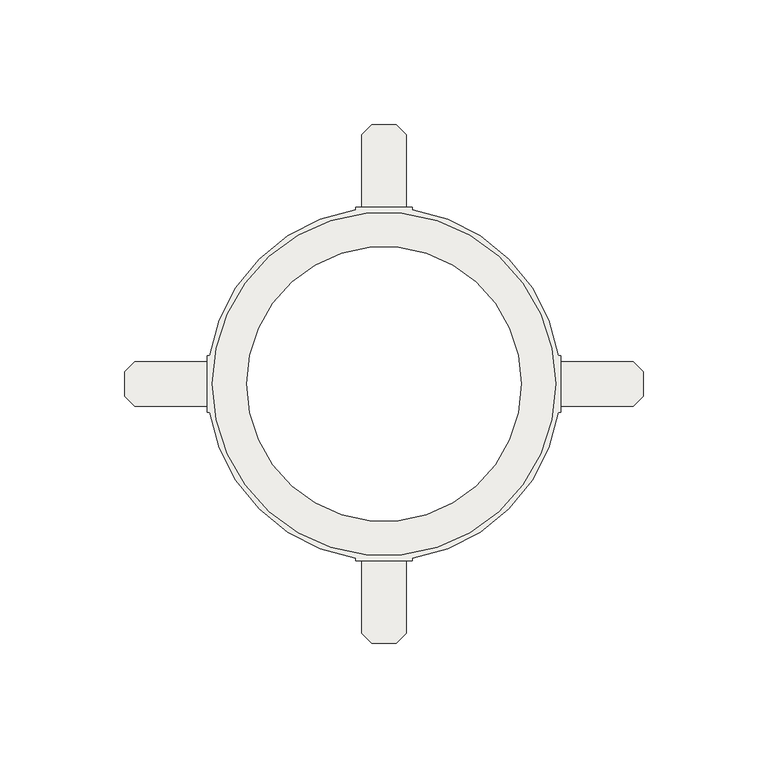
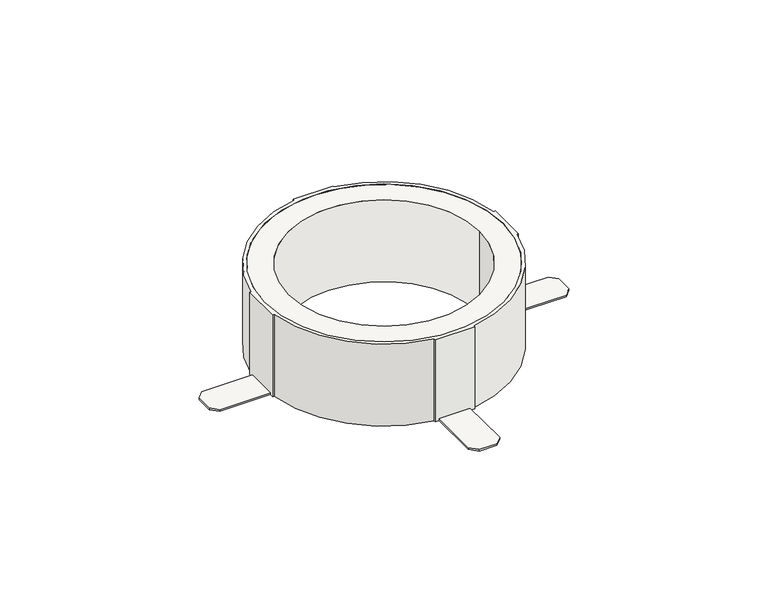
"""IFC4 building model written with IfcOpenShell, lengths in millimetres: covering geometry, NLRS_52_SE_WPB_brandmanchet RS90 Plus EN_PRO_101862_geb : DN40-200 / d40-200 - OD."""

from ifc_helpers import new_model, si_unit, point, origin, origin_with_axes, origin_2d, place, context, project, spatial, polyline, circle_curve, trimmed, segment, composite_curve, outline, extrude, source, transform, mapped, element, save


def covering_f3e6e1b0(model_context):
    return source(origin(), model_context, "Body", "SweptSolid", [
        extrude(outline(polyline([(-9.0, -99.75), (-9.0, -68.75), (9.0, -68.75), (9.0, -99.75), (5.0, -103.75), (-5.0, -103.75), (-9.0, -99.75)])), origin_with_axes(), (0.0, 0.0, 1.0), 1.0),
        extrude(outline(polyline([(-99.75, 9.0), (-68.75, 9.0), (-68.75, -9.0), (-99.75, -9.0), (-103.75, -5.0), (-103.75, 5.0), (-99.75, 9.0)])), origin_with_axes(), (0.0, 0.0, 1.0), 1.0),
        extrude(outline(polyline([(99.75, -9.0), (68.75, -9.0), (68.75, 9.0), (99.75, 9.0), (103.75, 5.0), (103.75, -5.0), (99.75, -9.0)])), origin_with_axes(), (0.0, 0.0, 1.0), 1.0),
        extrude(outline(polyline([(9.0, 99.75), (9.0, 68.75), (-9.0, 68.75), (-9.0, 99.75), (-5.0, 103.75), (5.0, 103.75), (9.0, 99.75)])), origin_with_axes(), (0.0, 0.0, 1.0), 1.0),
        extrude(outline(composite_curve([segment(polyline([(11.3825, 70.75), (11.3825, 69.8283695)]), True, "CONTINUOUS"), segment(trimmed(circle_curve(origin_2d(), 70.75), [point((11.3825, 69.8283695))], [point((69.8283695, 11.3825))], False, "CARTESIAN"), True, "CONTINUOUS"), segment(polyline([(69.8283695, 11.3825), (70.75, 11.3825), (70.75, -11.3825), (69.8283695, -11.3825)]), True, "CONTINUOUS"), segment(trimmed(circle_curve(origin_2d(), 70.75), [point((69.8283695, -11.3825))], [point((11.3825, -69.8283695))], False, "CARTESIAN"), True, "CONTINUOUS"), segment(polyline([(11.3825, -69.8283695), (11.3825, -70.75), (-11.3825, -70.75), (-11.3825, -69.8283695)]), True, "CONTINUOUS"), segment(trimmed(circle_curve(origin_2d(), 70.75), [point((-11.3825, -69.8283695))], [point((-69.8283695, -11.3825))], False, "CARTESIAN"), True, "CONTINUOUS"), segment(polyline([(-69.8283695, -11.3825), (-70.75, -11.3825), (-70.75, 11.3825), (-69.8283695, 11.3825)]), True, "CONTINUOUS"), segment(trimmed(circle_curve(origin_2d(), 70.75), [point((-69.8283695, 11.3825))], [point((-11.3825, 69.8283695))], False, "CARTESIAN"), True, "CONTINUOUS"), segment(polyline([(-11.3825, 69.8283695), (-11.3825, 70.75), (11.3825, 70.75)]), True, "CONTINUOUS")], self_intersect=False), holes=[composite_curve([segment(trimmed(circle_curve(origin_2d(), 68.75), [point((68.75, 0.0))], [point((-68.75, 0.0))], True, "CARTESIAN"), True, "CONTINUOUS"), segment(trimmed(circle_curve(origin_2d(), 68.75), [point((-68.75, 0.0))], [point((68.75, 0.0))], True, "CARTESIAN"), True, "CONTINUOUS")], self_intersect=False)]), origin_with_axes(), (0.0, 0.0, 1.0), 50.0),
        extrude(outline(composite_curve([segment(trimmed(circle_curve(origin_2d(), 68.75), [point((-68.75, 0.0))], [point((68.75, 0.0))], False, "CARTESIAN"), True, "CONTINUOUS"), segment(trimmed(circle_curve(origin_2d(), 68.75), [point((68.75, 0.0))], [point((-68.75, 0.0))], False, "CARTESIAN"), True, "CONTINUOUS")], self_intersect=False), holes=[composite_curve([segment(trimmed(circle_curve(origin_2d(), 55.0), [point((-55.0, 0.0))], [point((55.0, 0.0))], True, "CARTESIAN"), True, "CONTINUOUS"), segment(trimmed(circle_curve(origin_2d(), 55.0), [point((55.0, 0.0))], [point((-55.0, 0.0))], True, "CARTESIAN"), True, "CONTINUOUS")], self_intersect=False)]), origin_with_axes(), (0.0, 0.0, 1.0), 50.0),
    ])


if __name__ == "__main__":
    model = new_model("IFC4")
    model_context = context("Model", 3, world=origin())
    ifc_project = project(units=[si_unit("LENGTHUNIT", "METRE", prefix="MILLI")], contexts=[model_context])
    site = spatial("IfcSite", under=ifc_project)
    building = spatial("IfcBuilding", under=site)
    placement = place(None, origin())
    covering_shape = covering_f3e6e1b0(model_context)
    element("IfcCovering", 1, ObjectType="NLRS_52_SE_WPB_brandmanchet RS90 Plus EN_PRO_101862_geb : DN40-200 / d40-200 - OD", at=placement, inside=building, context=model_context, shape_type="MappedRepresentation", body=[
        mapped(covering_shape, transform((0.0, 0.0, 0.0), x_axis=(1.0, 0.0, 0.0), y_axis=(0.0, 1.0, 0.0), z_axis=(0.0, 0.0, 1.0))),
    ])
    save(model, "model.ifc")
